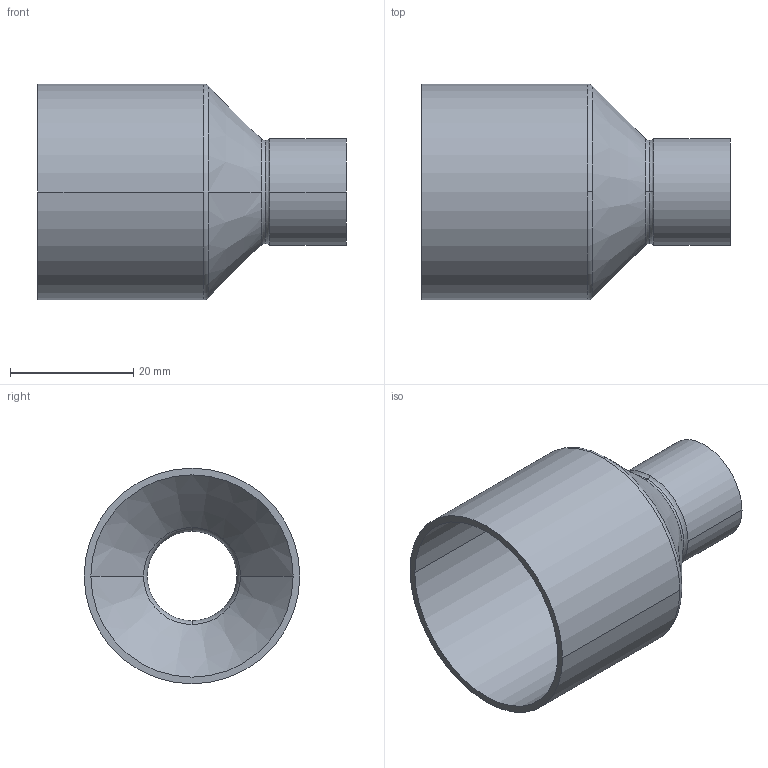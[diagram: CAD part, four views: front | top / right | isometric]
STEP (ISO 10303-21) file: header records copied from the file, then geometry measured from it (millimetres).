
FILE_DESCRIPTION((''),'2;1');
FILE_NAME('G:\Technics\CAD\Bauteile\Serie 15243\152433515.stp','2005-10-21T12:49:41',('boden'),(''),'Autodesk Inventor 8','Autodesk Inventor 8','');
FILE_SCHEMA(('AUTOMOTIVE_DESIGN { 1 0 10303 214 1 1 1 1 }'));
Length unit declared in the file: millimetre
Products named in the file (1): 152433515
Bounding box: 50 x 35 x 35 mm (x, y, z)
Volume: 5048.5 mm3; surface area: 9352.6 mm2
Topology: 1 solids, 1 shells, 24 faces, 60 edges, 38 vertices
Faces by surface type: cylinder 8, torus 6, bspline 4, cone 4, plane 2
Entity records: 931 total; most frequent: CARTESIAN_POINT 299, DIRECTION 150, ORIENTED_EDGE 120, AXIS2_PLACEMENT_3D 69, EDGE_CURVE 60, CIRCLE 48, VERTEX_POINT 38, EDGE_LOOP 26
